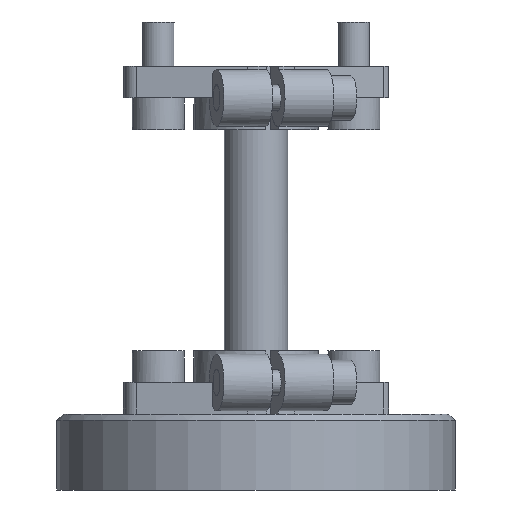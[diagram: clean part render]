
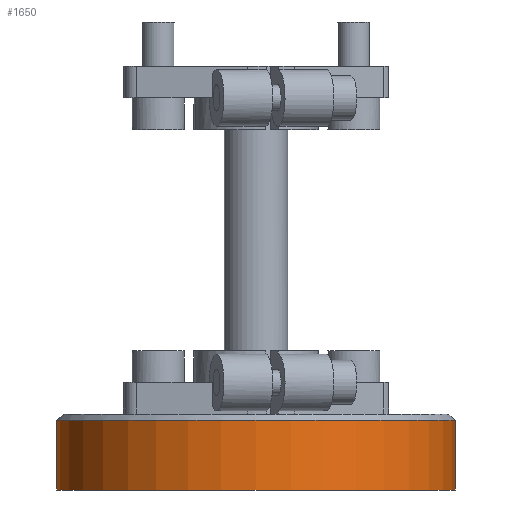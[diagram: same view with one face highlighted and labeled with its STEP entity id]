
A CAD part, front view. The second image highlights one B-rep face of the part: STEP entity #1650.
In plain terms, the highlighted cylindrical face has radius 31.5 mm (diameter 63 mm), a partial arc.
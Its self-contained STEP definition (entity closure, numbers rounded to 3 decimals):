
#159 = CARTESIAN_POINT ( 'NONE',  ( -31.5, 0., 0. ) ) ;
#324 = DIRECTION ( 'NONE',  ( 1., 0., 0. ) ) ;
#342 = VECTOR ( 'NONE', #5142, 1000. ) ;
#463 = DIRECTION ( 'NONE',  ( 0., 1., 0. ) ) ;
#595 = CARTESIAN_POINT ( 'NONE',  ( 0., 0., 11. ) ) ;
#1003 = FACE_OUTER_BOUND ( 'NONE', #6722, .T. ) ;
#1645 = DIRECTION ( 'NONE',  ( 1., 0., 0. ) ) ;
#1650 = ADVANCED_FACE ( 'NONE', ( #1003 ), #12941, .T. ) ;
#1797 = EDGE_CURVE ( 'NONE', #1831, #10681, #8284, .T. ) ;
#1831 = VERTEX_POINT ( 'NONE', #9104 ) ;
#1876 = CARTESIAN_POINT ( 'NONE',  ( 0., 0., 12. ) ) ;
#2385 = DIRECTION ( 'NONE',  ( 0., 0., 1. ) ) ;
#2545 = ORIENTED_EDGE ( 'NONE', *, *, #11396, .F. ) ;
#3263 = CARTESIAN_POINT ( 'NONE',  ( -31.5, 0., 11. ) ) ;
#3565 = CIRCLE ( 'NONE', #6262, 31.5 ) ;
#3631 = AXIS2_PLACEMENT_3D ( 'NONE', #595, #7873, #1645 ) ;
#3993 = CARTESIAN_POINT ( 'NONE',  ( 31.5, 0., 11. ) ) ;
#4622 = VERTEX_POINT ( 'NONE', #159 ) ;
#5072 = ORIENTED_EDGE ( 'NONE', *, *, #1797, .T. ) ;
#5142 = DIRECTION ( 'NONE',  ( 0., 0., 1. ) ) ;
#5260 = CARTESIAN_POINT ( 'NONE',  ( -31.5, 0., 0. ) ) ;
#5266 = AXIS2_PLACEMENT_3D ( 'NONE', #1876, #2385, #463 ) ;
#5651 = VECTOR ( 'NONE', #7314, 1000. ) ;
#6262 = AXIS2_PLACEMENT_3D ( 'NONE', #12565, #6582, #324 ) ;
#6582 = DIRECTION ( 'NONE',  ( 0., 0., 1. ) ) ;
#6722 = EDGE_LOOP ( 'NONE', ( #11959, #5072, #13122, #2545 ) ) ;
#6775 = EDGE_CURVE ( 'NONE', #4622, #1831, #3565, .T. ) ;
#7006 = CIRCLE ( 'NONE', #3631, 31.5 ) ;
#7236 = CARTESIAN_POINT ( 'NONE',  ( 31.5, 0., 0. ) ) ;
#7314 = DIRECTION ( 'NONE',  ( 0., 0., 1. ) ) ;
#7660 = EDGE_CURVE ( 'NONE', #9767, #10681, #7006, .T. ) ;
#7873 = DIRECTION ( 'NONE',  ( 0., 0., 1. ) ) ;
#8284 = LINE ( 'NONE', #7236, #342 ) ;
#9104 = CARTESIAN_POINT ( 'NONE',  ( 31.5, 0., 0. ) ) ;
#9767 = VERTEX_POINT ( 'NONE', #3263 ) ;
#10681 = VERTEX_POINT ( 'NONE', #3993 ) ;
#11004 = LINE ( 'NONE', #5260, #5651 ) ;
#11396 = EDGE_CURVE ( 'NONE', #4622, #9767, #11004, .T. ) ;
#11959 = ORIENTED_EDGE ( 'NONE', *, *, #6775, .T. ) ;
#12565 = CARTESIAN_POINT ( 'NONE',  ( 0., 0., 0. ) ) ;
#12941 = CYLINDRICAL_SURFACE ( 'NONE', #5266, 31.5 ) ;
#13122 = ORIENTED_EDGE ( 'NONE', *, *, #7660, .F. ) ;
